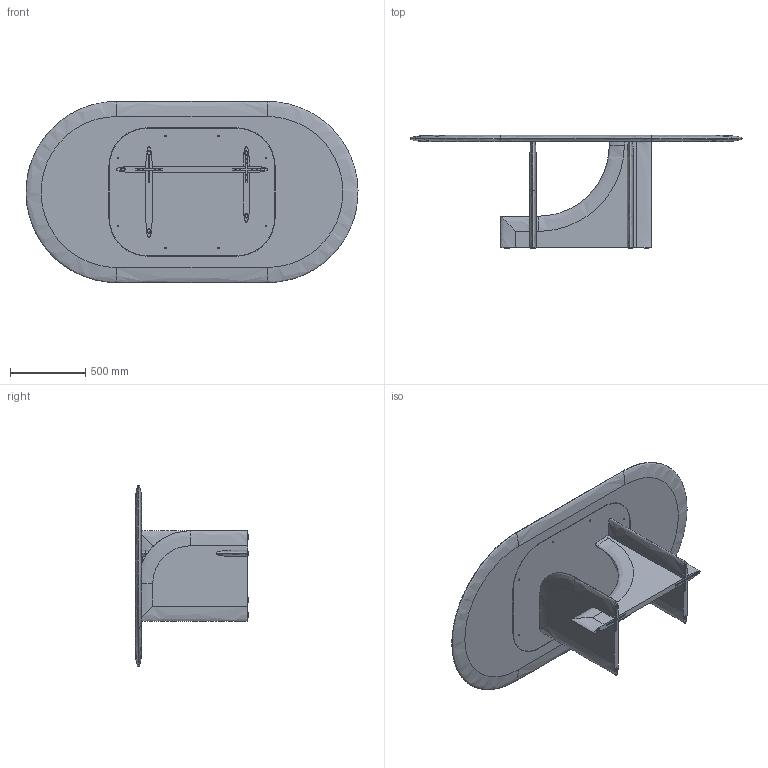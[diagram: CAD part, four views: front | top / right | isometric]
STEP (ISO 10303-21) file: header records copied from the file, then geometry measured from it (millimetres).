
FILE_DESCRIPTION (( 'STEP AP214' ), '1' );
FILE_NAME ('SELCE T 2200 x 1200.STEP', '2024-05-14T15:56:42', ( '' ), ( '' ), 'SwSTEP 2.0', 'SolidWorks 2023', '' );
FILE_SCHEMA (( 'AUTOMOTIVE_DESIGN' ));
Length unit declared in the file: millimetre
Products named in the file (6): CROCE FERRO; GAMBE e PIASTRA_PIASTRA A; GAMBE e PIASTRA_GAMBA A; SCIVOLO_IPEA_20PTPD007N; SELCE T 2200 x 1200; TOP_2200 x 1200
Assembly tree (12 placements, depth 2):
  SELCE T 2200 x 1200
    TOP_2200 x 1200
    GAMBE e PIASTRA_GAMBA A
    GAMBE e PIASTRA_PIASTRA A
    CROCE FERRO  x3
    SCIVOLO_IPEA_20PTPD007N  x6
Bounding box: 2199.88 x 749 x 1200 mm (x, y, z)
Volume: 127746184.5 mm3; surface area: 9011929.3 mm2
Topology: 16 solids, 16 shells, 620 faces, 1584 edges, 966 vertices
Faces by surface type: cylinder 244, plane 186, cone 132, bspline 58
Entity records: 16693 total; most frequent: CARTESIAN_POINT 5327, DIRECTION 2323, ORIENTED_EDGE 2260, EDGE_CURVE 1130, AXIS2_PLACEMENT_3D 865, VERTEX_POINT 726, EDGE_LOOP 600, VECTOR 593
